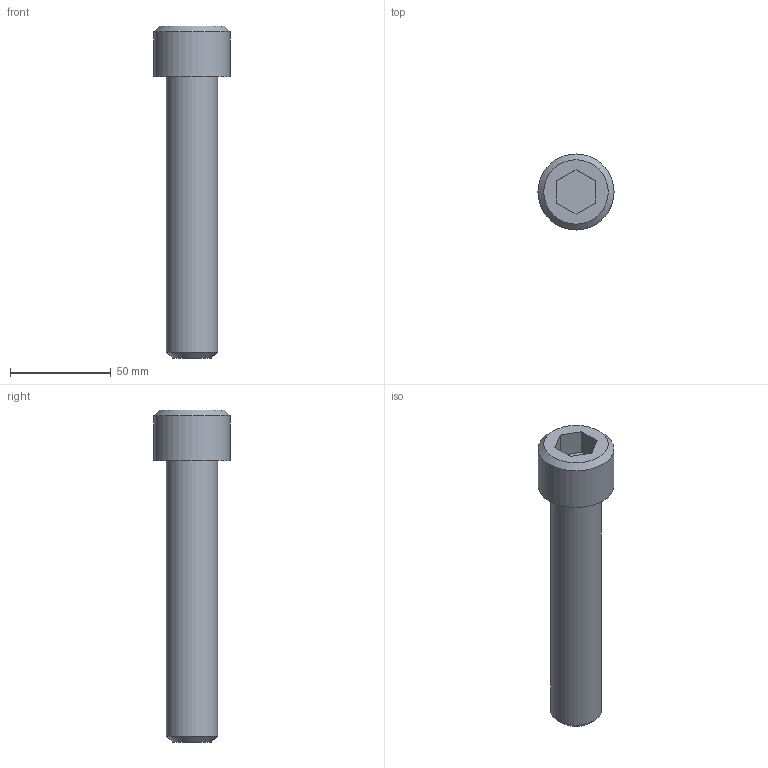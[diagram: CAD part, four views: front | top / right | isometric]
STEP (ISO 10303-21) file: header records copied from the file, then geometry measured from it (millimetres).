
FILE_DESCRIPTION((''),'2;1');
FILE_NAME('C:\Users\Stan\Desktop\import\SHCS 1-8 UNCx5.5.ipt.step','2011-08-18T17:44:20',(''),(''),'Autodesk Inventor 2012','Autodesk Inventor 2012','');
FILE_SCHEMA(('AUTOMOTIVE_DESIGN { 1 0 10303 214 1 1 1 1 }'));
Length unit declared in the file: inch
Products named in the file (1): SHCS 1-8 UNCx5.5
Bounding box: 37.8 x 37.8 x 164.95 mm (x, y, z)
Volume: 94380 mm3; surface area: 16860.4 mm2
Topology: 1 solids, 1 shells, 14 faces, 28 edges, 18 vertices
Faces by surface type: plane 10, cone 2, cylinder 2
Full cylindrical faces by diameter (mm): 25.4 x1, 37.795 x1
Entity records: 391 total; most frequent: DIRECTION 60, CARTESIAN_POINT 57, ORIENTED_EDGE 48, EDGE_CURVE 24, AXIS2_PLACEMENT_3D 21, EDGE_LOOP 20, VERTEX_POINT 18, VECTOR 18
